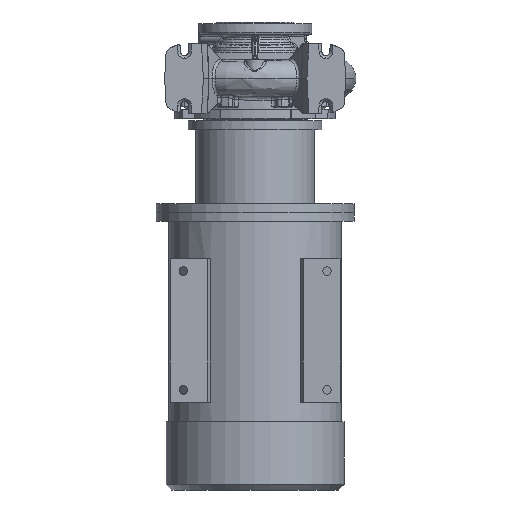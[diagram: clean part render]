
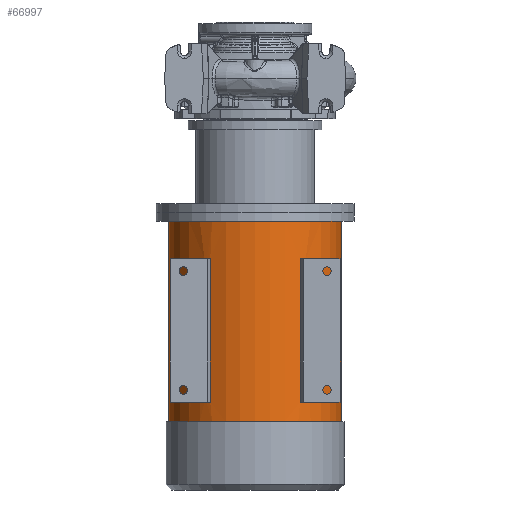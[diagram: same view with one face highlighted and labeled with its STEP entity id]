
A CAD part, front view. The second image highlights one B-rep face of the part: STEP entity #66997.
In plain terms, the highlighted cylindrical face has radius 152.5 mm (diameter 305 mm), a partial arc.
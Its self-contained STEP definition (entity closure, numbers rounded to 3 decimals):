
#410 = CARTESIAN_POINT ( 'NONE',  ( -79.357, -130.226, -571.8 ) ) ;
#625 = LINE ( 'NONE', #34251, #28612 ) ;
#879 = VERTEX_POINT ( 'NONE', #58169 ) ;
#894 = CARTESIAN_POINT ( 'NONE',  ( -79.357, -130.226, -318.8 ) ) ;
#1449 = EDGE_CURVE ( 'NONE', #65126, #36512, #61687, .T. ) ;
#2649 = EDGE_CURVE ( 'NONE', #61217, #7195, #37957, .T. ) ;
#2737 = DIRECTION ( 'NONE',  ( 0., 0., -1. ) ) ;
#3527 = DIRECTION ( 'NONE',  ( 0., 0., -1. ) ) ;
#3845 = AXIS2_PLACEMENT_3D ( 'NONE', #61713, #56100, #21765 ) ;
#4010 = DIRECTION ( 'NONE',  ( 0., 0., -1. ) ) ;
#4123 = ORIENTED_EDGE ( 'NONE', *, *, #67424, .T. ) ;
#4354 = VECTOR ( 'NONE', #3527, 1000. ) ;
#5008 = CARTESIAN_POINT ( 'NONE',  ( 0., 0., -727.3 ) ) ;
#5217 = CARTESIAN_POINT ( 'NONE',  ( 89.37, -123.569, -571.8 ) ) ;
#6919 = ORIENTED_EDGE ( 'NONE', *, *, #25069, .F. ) ;
#7083 = FACE_OUTER_BOUND ( 'NONE', #33151, .T. ) ;
#7115 = EDGE_CURVE ( 'NONE', #40928, #7195, #63202, .T. ) ;
#7195 = VERTEX_POINT ( 'NONE', #5217 ) ;
#7644 = CARTESIAN_POINT ( 'NONE',  ( 0., 0., -318.8 ) ) ;
#8443 = ORIENTED_EDGE ( 'NONE', *, *, #1449, .F. ) ;
#8547 = EDGE_CURVE ( 'NONE', #66191, #64697, #21859, .T. ) ;
#8867 = CYLINDRICAL_SURFACE ( 'NONE', #58763, 152.5 ) ;
#9785 = LINE ( 'NONE', #18383, #29888 ) ;
#10608 = FACE_BOUND ( 'NONE', #52477, .T. ) ;
#11725 = VERTEX_POINT ( 'NONE', #33561 ) ;
#11799 = CARTESIAN_POINT ( 'NONE',  ( -89.37, -123.569, -571.8 ) ) ;
#13168 = FACE_BOUND ( 'NONE', #63776, .T. ) ;
#14583 = CARTESIAN_POINT ( 'NONE',  ( -152.5, 0., -727.3 ) ) ;
#14765 = DIRECTION ( 'NONE',  ( -1., 0., 0. ) ) ;
#15317 = LINE ( 'NONE', #42176, #30188 ) ;
#16893 = DIRECTION ( 'NONE',  ( 1., 0., 0. ) ) ;
#18383 = CARTESIAN_POINT ( 'NONE',  ( 79.357, -130.226, -727.3 ) ) ;
#18610 = DIRECTION ( 'NONE',  ( 0., 0., 1. ) ) ;
#21765 = DIRECTION ( 'NONE',  ( -1., 0., 0. ) ) ;
#21859 = CIRCLE ( 'NONE', #59069, 152.5 ) ;
#21869 = ORIENTED_EDGE ( 'NONE', *, *, #7115, .F. ) ;
#22437 = CARTESIAN_POINT ( 'NONE',  ( 89.37, -123.569, -318.8 ) ) ;
#22694 = DIRECTION ( 'NONE',  ( 0., 0., -1. ) ) ;
#23684 = VECTOR ( 'NONE', #31272, 1000. ) ;
#25069 = EDGE_CURVE ( 'NONE', #66191, #65126, #625, .T. ) ;
#26014 = CARTESIAN_POINT ( 'NONE',  ( -152.5, 0., -252.3 ) ) ;
#27381 = ORIENTED_EDGE ( 'NONE', *, *, #2649, .T. ) ;
#28612 = VECTOR ( 'NONE', #34736, 1000. ) ;
#29888 = VECTOR ( 'NONE', #63016, 1000. ) ;
#30188 = VECTOR ( 'NONE', #2737, 1000. ) ;
#30210 = CARTESIAN_POINT ( 'NONE',  ( 152.5, 0., -606.3 ) ) ;
#31272 = DIRECTION ( 'NONE',  ( 0., 0., -1. ) ) ;
#32254 = AXIS2_PLACEMENT_3D ( 'NONE', #54250, #43691, #14765 ) ;
#32570 = CARTESIAN_POINT ( 'NONE',  ( 0., 0., -606.3 ) ) ;
#33151 = EDGE_LOOP ( 'NONE', ( #56848, #4123, #40536, #43182 ) ) ;
#33236 = EDGE_CURVE ( 'NONE', #41303, #61217, #66374, .T. ) ;
#33276 = DIRECTION ( 'NONE',  ( 0., 0., -1. ) ) ;
#33561 = CARTESIAN_POINT ( 'NONE',  ( 152.5, 0., -252.3 ) ) ;
#34065 = CARTESIAN_POINT ( 'NONE',  ( 0., 0., -318.8 ) ) ;
#34181 = CARTESIAN_POINT ( 'NONE',  ( 79.357, -130.226, -318.8 ) ) ;
#34251 = CARTESIAN_POINT ( 'NONE',  ( -79.357, -130.226, -727.3 ) ) ;
#34736 = DIRECTION ( 'NONE',  ( 0., 0., 1. ) ) ;
#35125 = CARTESIAN_POINT ( 'NONE',  ( -89.37, -123.569, -318.8 ) ) ;
#36512 = VERTEX_POINT ( 'NONE', #35125 ) ;
#37563 = CARTESIAN_POINT ( 'NONE',  ( 0., 0., -571.8 ) ) ;
#37957 = LINE ( 'NONE', #56325, #61594 ) ;
#37970 = EDGE_CURVE ( 'NONE', #36512, #64697, #15317, .T. ) ;
#40536 = ORIENTED_EDGE ( 'NONE', *, *, #42447, .T. ) ;
#40928 = VERTEX_POINT ( 'NONE', #52462 ) ;
#41303 = VERTEX_POINT ( 'NONE', #34181 ) ;
#42176 = CARTESIAN_POINT ( 'NONE',  ( -89.37, -123.569, -727.3 ) ) ;
#42447 = EDGE_CURVE ( 'NONE', #50404, #879, #43974, .T. ) ;
#42800 = ORIENTED_EDGE ( 'NONE', *, *, #8547, .T. ) ;
#42948 = DIRECTION ( 'NONE',  ( 1., 0., 0. ) ) ;
#43182 = ORIENTED_EDGE ( 'NONE', *, *, #67741, .F. ) ;
#43691 = DIRECTION ( 'NONE',  ( 0., 0., 1. ) ) ;
#43974 = LINE ( 'NONE', #14583, #23684 ) ;
#44683 = AXIS2_PLACEMENT_3D ( 'NONE', #32570, #33276, #50141 ) ;
#46686 = ORIENTED_EDGE ( 'NONE', *, *, #33236, .T. ) ;
#48553 = VERTEX_POINT ( 'NONE', #30210 ) ;
#50141 = DIRECTION ( 'NONE',  ( -1., 0., 0. ) ) ;
#50404 = VERTEX_POINT ( 'NONE', #26014 ) ;
#51440 = DIRECTION ( 'NONE',  ( 0., 0., -1. ) ) ;
#51535 = EDGE_CURVE ( 'NONE', #11725, #48553, #68319, .T. ) ;
#52462 = CARTESIAN_POINT ( 'NONE',  ( 79.357, -130.226, -571.8 ) ) ;
#52477 = EDGE_LOOP ( 'NONE', ( #6919, #42800, #70134, #8443 ) ) ;
#54250 = CARTESIAN_POINT ( 'NONE',  ( 0., 0., -571.8 ) ) ;
#56100 = DIRECTION ( 'NONE',  ( 0., 0., -1. ) ) ;
#56325 = CARTESIAN_POINT ( 'NONE',  ( 89.37, -123.569, -727.3 ) ) ;
#56585 = AXIS2_PLACEMENT_3D ( 'NONE', #7644, #18610, #68862 ) ;
#56848 = ORIENTED_EDGE ( 'NONE', *, *, #51535, .F. ) ;
#56984 = CIRCLE ( 'NONE', #3845, 152.5 ) ;
#58169 = CARTESIAN_POINT ( 'NONE',  ( -152.5, 0., -606.3 ) ) ;
#58763 = AXIS2_PLACEMENT_3D ( 'NONE', #5008, #66953, #71641 ) ;
#59069 = AXIS2_PLACEMENT_3D ( 'NONE', #37563, #4010, #42948 ) ;
#59761 = ORIENTED_EDGE ( 'NONE', *, *, #65646, .T. ) ;
#61217 = VERTEX_POINT ( 'NONE', #22437 ) ;
#61594 = VECTOR ( 'NONE', #22694, 1000. ) ;
#61687 = CIRCLE ( 'NONE', #62567, 152.5 ) ;
#61713 = CARTESIAN_POINT ( 'NONE',  ( 0., 0., -252.3 ) ) ;
#62221 = CIRCLE ( 'NONE', #44683, 152.5 ) ;
#62567 = AXIS2_PLACEMENT_3D ( 'NONE', #34065, #51440, #16893 ) ;
#63016 = DIRECTION ( 'NONE',  ( 0., 0., 1. ) ) ;
#63202 = CIRCLE ( 'NONE', #32254, 152.5 ) ;
#63776 = EDGE_LOOP ( 'NONE', ( #21869, #59761, #46686, #27381 ) ) ;
#64697 = VERTEX_POINT ( 'NONE', #11799 ) ;
#64747 = CARTESIAN_POINT ( 'NONE',  ( 152.5, 0., -727.3 ) ) ;
#65126 = VERTEX_POINT ( 'NONE', #894 ) ;
#65646 = EDGE_CURVE ( 'NONE', #40928, #41303, #9785, .T. ) ;
#66191 = VERTEX_POINT ( 'NONE', #410 ) ;
#66374 = CIRCLE ( 'NONE', #56585, 152.5 ) ;
#66953 = DIRECTION ( 'NONE',  ( 0., 0., -1. ) ) ;
#66997 = ADVANCED_FACE ( 'NONE', ( #7083, #13168, #10608 ), #8867, .T. ) ;
#67424 = EDGE_CURVE ( 'NONE', #11725, #50404, #56984, .T. ) ;
#67741 = EDGE_CURVE ( 'NONE', #48553, #879, #62221, .T. ) ;
#68319 = LINE ( 'NONE', #64747, #4354 ) ;
#68862 = DIRECTION ( 'NONE',  ( -1., 0., 0. ) ) ;
#70134 = ORIENTED_EDGE ( 'NONE', *, *, #37970, .F. ) ;
#71641 = DIRECTION ( 'NONE',  ( -1., 0., 0. ) ) ;
